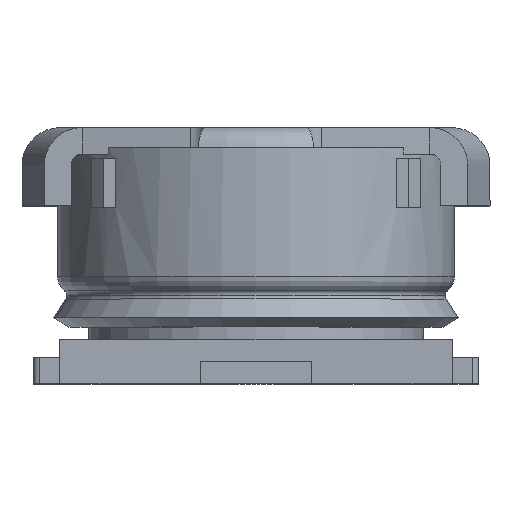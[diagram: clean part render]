
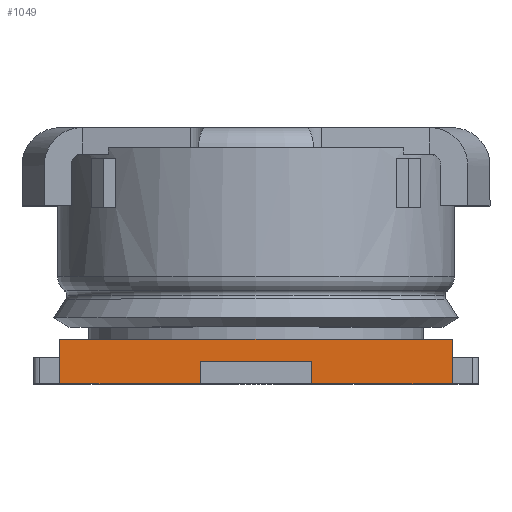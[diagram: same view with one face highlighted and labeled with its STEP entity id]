
A CAD part, top view. The second image highlights one B-rep face of the part: STEP entity #1049.
In plain terms, the highlighted planar face has unit normal (0, 0, 1).
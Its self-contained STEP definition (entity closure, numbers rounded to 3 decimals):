
#273 = CARTESIAN_POINT ( 'NONE',  ( 0.88, 0.2, 0.84 ) ) ;
#445 = VECTOR ( 'NONE', #3469, 1000. ) ;
#785 = LINE ( 'NONE', #3942, #3524 ) ;
#1049 = ADVANCED_FACE ( 'NONE', ( #5606 ), #3333, .F. ) ;
#1307 = EDGE_CURVE ( 'NONE', #9794, #11618, #11856, .T. ) ;
#1532 = LINE ( 'NONE', #10154, #9821 ) ;
#1611 = VECTOR ( 'NONE', #3917, 1000. ) ;
#1753 = ORIENTED_EDGE ( 'NONE', *, *, #1307, .F. ) ;
#1817 = CARTESIAN_POINT ( 'NONE',  ( -0.25, 0.1, 0.84 ) ) ;
#1838 = VERTEX_POINT ( 'NONE', #11262 ) ;
#2345 = CARTESIAN_POINT ( 'NONE',  ( 0.88, 0., 0.84 ) ) ;
#2587 = VERTEX_POINT ( 'NONE', #9989 ) ;
#2764 = CARTESIAN_POINT ( 'NONE',  ( -0.265, 0.1, 0.84 ) ) ;
#2774 = ORIENTED_EDGE ( 'NONE', *, *, #7876, .F. ) ;
#2784 = DIRECTION ( 'NONE',  ( 0., 0., -1. ) ) ;
#3194 = ORIENTED_EDGE ( 'NONE', *, *, #7765, .T. ) ;
#3296 = VERTEX_POINT ( 'NONE', #1817 ) ;
#3325 = EDGE_CURVE ( 'NONE', #10234, #11618, #1532, .T. ) ;
#3333 = PLANE ( 'NONE',  #9438 ) ;
#3469 = DIRECTION ( 'NONE',  ( 0., -1., 0. ) ) ;
#3524 = VECTOR ( 'NONE', #6160, 1000. ) ;
#3646 = DIRECTION ( 'NONE',  ( 1., 0., 0. ) ) ;
#3917 = DIRECTION ( 'NONE',  ( 1., 0., 0. ) ) ;
#3942 = CARTESIAN_POINT ( 'NONE',  ( 0.88, 0., 0.84 ) ) ;
#4617 = CARTESIAN_POINT ( 'NONE',  ( -0.25, 0., 0.84 ) ) ;
#5290 = VECTOR ( 'NONE', #7502, 1000. ) ;
#5606 = FACE_OUTER_BOUND ( 'NONE', #11386, .T. ) ;
#5622 = VECTOR ( 'NONE', #6879, 1000. ) ;
#5626 = EDGE_CURVE ( 'NONE', #8466, #9794, #10547, .T. ) ;
#6160 = DIRECTION ( 'NONE',  ( 1., 0., 0. ) ) ;
#6363 = CARTESIAN_POINT ( 'NONE',  ( -0.25, 0., 0.84 ) ) ;
#6384 = LINE ( 'NONE', #7889, #8559 ) ;
#6689 = CARTESIAN_POINT ( 'NONE',  ( -0.88, 0.2, 0.84 ) ) ;
#6855 = LINE ( 'NONE', #2764, #1611 ) ;
#6879 = DIRECTION ( 'NONE',  ( 1., 0., 0. ) ) ;
#6892 = LINE ( 'NONE', #6689, #9655 ) ;
#7097 = ORIENTED_EDGE ( 'NONE', *, *, #5626, .F. ) ;
#7502 = DIRECTION ( 'NONE',  ( 0., -1., 0. ) ) ;
#7626 = DIRECTION ( 'NONE',  ( 0., -1., 0. ) ) ;
#7765 = EDGE_CURVE ( 'NONE', #1838, #9407, #785, .T. ) ;
#7816 = ORIENTED_EDGE ( 'NONE', *, *, #8596, .T. ) ;
#7876 = EDGE_CURVE ( 'NONE', #3296, #9407, #10634, .T. ) ;
#7889 = CARTESIAN_POINT ( 'NONE',  ( 0.25, 0., 0.84 ) ) ;
#7952 = CARTESIAN_POINT ( 'NONE',  ( 0.25, 0., 0.84 ) ) ;
#8466 = VERTEX_POINT ( 'NONE', #11739 ) ;
#8559 = VECTOR ( 'NONE', #9755, 1000. ) ;
#8596 = EDGE_CURVE ( 'NONE', #3296, #2587, #6855, .T. ) ;
#8890 = ORIENTED_EDGE ( 'NONE', *, *, #11506, .T. ) ;
#9326 = DIRECTION ( 'NONE',  ( -1., 0., 0. ) ) ;
#9362 = CARTESIAN_POINT ( 'NONE',  ( 0.88, 0.2, 0.84 ) ) ;
#9407 = VERTEX_POINT ( 'NONE', #4617 ) ;
#9438 = AXIS2_PLACEMENT_3D ( 'NONE', #9362, #2784, #9326 ) ;
#9655 = VECTOR ( 'NONE', #7626, 1000. ) ;
#9755 = DIRECTION ( 'NONE',  ( 0., 1., 0. ) ) ;
#9767 = EDGE_CURVE ( 'NONE', #10234, #2587, #6384, .T. ) ;
#9794 = VERTEX_POINT ( 'NONE', #10669 ) ;
#9821 = VECTOR ( 'NONE', #3646, 1000. ) ;
#9989 = CARTESIAN_POINT ( 'NONE',  ( 0.25, 0.1, 0.84 ) ) ;
#10154 = CARTESIAN_POINT ( 'NONE',  ( 0.88, 0., 0.84 ) ) ;
#10234 = VERTEX_POINT ( 'NONE', #7952 ) ;
#10547 = LINE ( 'NONE', #273, #5622 ) ;
#10634 = LINE ( 'NONE', #6363, #5290 ) ;
#10669 = CARTESIAN_POINT ( 'NONE',  ( 0.88, 0.2, 0.84 ) ) ;
#10963 = ORIENTED_EDGE ( 'NONE', *, *, #9767, .F. ) ;
#11194 = CARTESIAN_POINT ( 'NONE',  ( 0.88, 0.2, 0.84 ) ) ;
#11262 = CARTESIAN_POINT ( 'NONE',  ( -0.88, 0., 0.84 ) ) ;
#11386 = EDGE_LOOP ( 'NONE', ( #7816, #10963, #11400, #1753, #7097, #8890, #3194, #2774 ) ) ;
#11400 = ORIENTED_EDGE ( 'NONE', *, *, #3325, .T. ) ;
#11506 = EDGE_CURVE ( 'NONE', #8466, #1838, #6892, .T. ) ;
#11618 = VERTEX_POINT ( 'NONE', #2345 ) ;
#11739 = CARTESIAN_POINT ( 'NONE',  ( -0.88, 0.2, 0.84 ) ) ;
#11856 = LINE ( 'NONE', #11194, #445 ) ;
